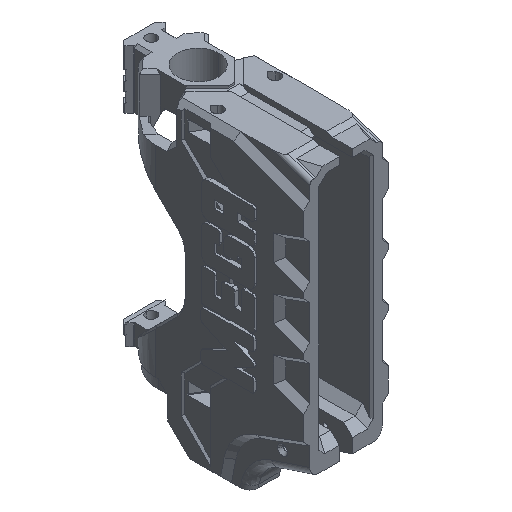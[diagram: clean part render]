
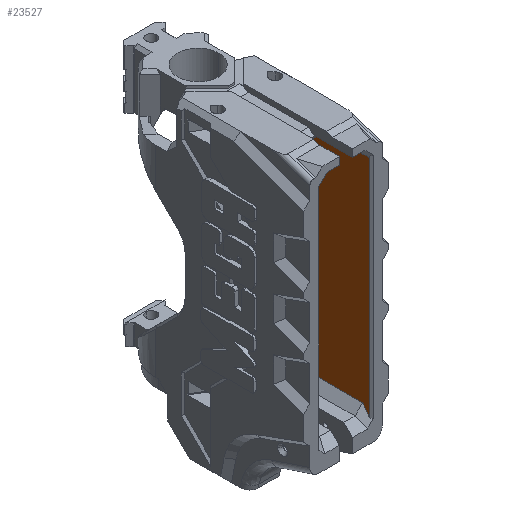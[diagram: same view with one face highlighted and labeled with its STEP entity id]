
A CAD part, isometric view. The second image highlights one B-rep face of the part: STEP entity #23527.
In plain terms, the highlighted planar face has unit normal (-1, 0, 0).
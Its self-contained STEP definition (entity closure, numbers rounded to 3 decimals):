
#226 = B_SPLINE_CURVE_WITH_KNOTS ( 'NONE', 3,
 ( #7610, #20710, #12756, #23173 ),
 .UNSPECIFIED., .F., .F.,
 ( 4, 4 ),
 ( 0., 1. ),
 .UNSPECIFIED. ) ;
#364 = AXIS2_PLACEMENT_3D ( 'NONE', #5022, #25871, #2819 ) ;
#384 = CARTESIAN_POINT ( 'NONE',  ( 13.356, -30.988, 120.665 ) ) ;
#861 = CARTESIAN_POINT ( 'NONE',  ( 13.356, -76.772, 2.236 ) ) ;
#899 = PLANE ( 'NONE',  #364 ) ;
#1202 = ORIENTED_EDGE ( 'NONE', *, *, #10526, .F. ) ;
#1346 = B_SPLINE_CURVE_WITH_KNOTS ( 'NONE', 3,
 ( #12668, #23484, #11142, #13206 ),
 .UNSPECIFIED., .F., .F.,
 ( 4, 4 ),
 ( 0., 1. ),
 .UNSPECIFIED. ) ;
#1426 = CARTESIAN_POINT ( 'NONE',  ( 13.356, -29.65, 119.317 ) ) ;
#2046 = ORIENTED_EDGE ( 'NONE', *, *, #9486, .T. ) ;
#2169 = CARTESIAN_POINT ( 'NONE',  ( 13.356, -76.2, 120.665 ) ) ;
#2348 = EDGE_CURVE ( 'NONE', #22256, #11971, #5067, .T. ) ;
#2819 = DIRECTION ( 'NONE',  ( 0., 0., 1. ) ) ;
#2904 = CARTESIAN_POINT ( 'NONE',  ( 13.356, -29.808, 119.317 ) ) ;
#2909 = B_SPLINE_CURVE_WITH_KNOTS ( 'NONE', 3,
 ( #8985, #21326, #8858, #12549 ),
 .UNSPECIFIED., .F., .F.,
 ( 4, 4 ),
 ( 0., 1. ),
 .UNSPECIFIED. ) ;
#3011 = ORIENTED_EDGE ( 'NONE', *, *, #7153, .T. ) ;
#3036 = ORIENTED_EDGE ( 'NONE', *, *, #2348, .T. ) ;
#3267 = CARTESIAN_POINT ( 'NONE',  ( 13.356, -76.771, 121.473 ) ) ;
#3937 = VERTEX_POINT ( 'NONE', #3267 ) ;
#4214 = CARTESIAN_POINT ( 'NONE',  ( 13.356, -75.586, 3.912 ) ) ;
#4467 = EDGE_CURVE ( 'NONE', #17676, #25938, #2909, .T. ) ;
#4962 = CARTESIAN_POINT ( 'NONE',  ( 13.356, -43.201, 7.265 ) ) ;
#5022 = CARTESIAN_POINT ( 'NONE',  ( 13.356, -76.772, 2.236 ) ) ;
#5067 = B_SPLINE_CURVE_WITH_KNOTS ( 'NONE', 3,
 ( #18815, #21138, #8542, #25657 ),
 .UNSPECIFIED., .F., .F.,
 ( 4, 4 ),
 ( 0., 1. ),
 .UNSPECIFIED. ) ;
#5134 = CARTESIAN_POINT ( 'NONE',  ( 13.356, -27.598, 114.3 ) ) ;
#5159 = FACE_OUTER_BOUND ( 'NONE', #16429, .T. ) ;
#5669 = CARTESIAN_POINT ( 'NONE',  ( 13.356, -46.059, 120.665 ) ) ;
#5701 = VERTEX_POINT ( 'NONE', #20480 ) ;
#6926 = EDGE_CURVE ( 'NONE', #19229, #11971, #18558, .T. ) ;
#7088 = CARTESIAN_POINT ( 'NONE',  ( 13.356, -30.7, 120.374 ) ) ;
#7146 = CARTESIAN_POINT ( 'NONE',  ( 13.356, -28.194, 7.265 ) ) ;
#7153 = EDGE_CURVE ( 'NONE', #25938, #18801, #226, .T. ) ;
#7478 = EDGE_CURVE ( 'NONE', #9389, #3937, #16544, .T. ) ;
#7610 = CARTESIAN_POINT ( 'NONE',  ( 13.356, -27.598, 114.3 ) ) ;
#8436 = CARTESIAN_POINT ( 'NONE',  ( 13.356, -76.2, 120.665 ) ) ;
#8542 = CARTESIAN_POINT ( 'NONE',  ( 13.356, -30.123, 119.475 ) ) ;
#8759 = CARTESIAN_POINT ( 'NONE',  ( 13.356, -28.194, 114.3 ) ) ;
#8858 = CARTESIAN_POINT ( 'NONE',  ( 13.356, -27.598, 115.282 ) ) ;
#8985 = CARTESIAN_POINT ( 'NONE',  ( 13.356, -27.598, 117.247 ) ) ;
#9083 = CARTESIAN_POINT ( 'NONE',  ( 13.356, -30.123, 119.317 ) ) ;
#9238 = CARTESIAN_POINT ( 'NONE',  ( 13.356, -30.988, 120.665 ) ) ;
#9369 = CARTESIAN_POINT ( 'NONE',  ( 13.356, -29.966, 119.317 ) ) ;
#9389 = VERTEX_POINT ( 'NONE', #8436 ) ;
#9486 = EDGE_CURVE ( 'NONE', #19229, #17676, #1346, .T. ) ;
#10184 = B_SPLINE_CURVE_WITH_KNOTS ( 'NONE', 3,
 ( #7146, #4962, #11260, #19620 ),
 .UNSPECIFIED., .F., .F.,
 ( 4, 4 ),
 ( 0., 1. ),
 .UNSPECIFIED. ) ;
#10320 = CARTESIAN_POINT ( 'NONE',  ( 13.356, -30.123, 119.793 ) ) ;
#10367 = VERTEX_POINT ( 'NONE', #18871 ) ;
#10526 = EDGE_CURVE ( 'NONE', #3937, #22069, #12708, .T. ) ;
#11142 = CARTESIAN_POINT ( 'NONE',  ( 13.356, -28.282, 117.937 ) ) ;
#11260 = CARTESIAN_POINT ( 'NONE',  ( 13.356, -58.208, 7.265 ) ) ;
#11929 = ORIENTED_EDGE ( 'NONE', *, *, #22052, .T. ) ;
#11971 = VERTEX_POINT ( 'NONE', #9083 ) ;
#12549 = CARTESIAN_POINT ( 'NONE',  ( 13.356, -27.598, 114.3 ) ) ;
#12668 = CARTESIAN_POINT ( 'NONE',  ( 13.356, -29.65, 119.317 ) ) ;
#12708 = B_SPLINE_CURVE_WITH_KNOTS ( 'NONE', 3,
 ( #19643, #15406, #15535, #861 ),
 .UNSPECIFIED., .F., .F.,
 ( 4, 4 ),
 ( 0., 1. ),
 .UNSPECIFIED. ) ;
#12756 = CARTESIAN_POINT ( 'NONE',  ( 13.356, -27.995, 114.3 ) ) ;
#12841 = CARTESIAN_POINT ( 'NONE',  ( 13.356, -74.401, 5.588 ) ) ;
#13001 = EDGE_CURVE ( 'NONE', #10367, #5701, #10184, .T. ) ;
#13206 = CARTESIAN_POINT ( 'NONE',  ( 13.356, -27.598, 117.247 ) ) ;
#13398 = CARTESIAN_POINT ( 'NONE',  ( 13.356, -30.988, 120.665 ) ) ;
#13662 = ORIENTED_EDGE ( 'NONE', *, *, #13001, .T. ) ;
#14113 = CARTESIAN_POINT ( 'NONE',  ( 13.356, -76.771, 121.473 ) ) ;
#14628 = CARTESIAN_POINT ( 'NONE',  ( 13.356, -73.216, 7.265 ) ) ;
#15406 = CARTESIAN_POINT ( 'NONE',  ( 13.356, -76.771, 81.727 ) ) ;
#15529 = EDGE_CURVE ( 'NONE', #18801, #10367, #23332, .T. ) ;
#15532 = CARTESIAN_POINT ( 'NONE',  ( 13.356, -61.129, 120.665 ) ) ;
#15535 = CARTESIAN_POINT ( 'NONE',  ( 13.356, -76.771, 41.982 ) ) ;
#15860 = ORIENTED_EDGE ( 'NONE', *, *, #6926, .F. ) ;
#16006 = B_SPLINE_CURVE_WITH_KNOTS ( 'NONE', 3,
 ( #17585, #15532, #5669, #9238 ),
 .UNSPECIFIED., .F., .F.,
 ( 4, 4 ),
 ( 0., 1. ),
 .UNSPECIFIED. ) ;
#16219 = ORIENTED_EDGE ( 'NONE', *, *, #15529, .T. ) ;
#16429 = EDGE_LOOP ( 'NONE', ( #24793, #1202, #19475, #11929, #22935, #3036, #15860, #2046, #20675, #3011, #16219, #13662 ) ) ;
#16544 = B_SPLINE_CURVE_WITH_KNOTS ( 'NONE', 3,
 ( #2169, #24679, #18903, #14113 ),
 .UNSPECIFIED., .F., .F.,
 ( 4, 4 ),
 ( 0., 1. ),
 .UNSPECIFIED. ) ;
#16644 = VERTEX_POINT ( 'NONE', #384 ) ;
#17097 = CARTESIAN_POINT ( 'NONE',  ( 13.356, -28.194, 7.265 ) ) ;
#17372 = CARTESIAN_POINT ( 'NONE',  ( 13.356, -30.411, 120.084 ) ) ;
#17531 = B_SPLINE_CURVE_WITH_KNOTS ( 'NONE', 3,
 ( #13398, #7088, #17372, #25749 ),
 .UNSPECIFIED., .F., .F.,
 ( 4, 4 ),
 ( 0., 1. ),
 .UNSPECIFIED. ) ;
#17576 = CARTESIAN_POINT ( 'NONE',  ( 13.356, -30.123, 119.317 ) ) ;
#17585 = CARTESIAN_POINT ( 'NONE',  ( 13.356, -76.2, 120.665 ) ) ;
#17676 = VERTEX_POINT ( 'NONE', #21621 ) ;
#18558 = B_SPLINE_CURVE_WITH_KNOTS ( 'NONE', 3,
 ( #19631, #2904, #9369, #17576 ),
 .UNSPECIFIED., .F., .F.,
 ( 4, 4 ),
 ( 0., 1. ),
 .UNSPECIFIED. ) ;
#18801 = VERTEX_POINT ( 'NONE', #23404 ) ;
#18805 = EDGE_CURVE ( 'NONE', #16644, #22256, #17531, .T. ) ;
#18815 = CARTESIAN_POINT ( 'NONE',  ( 13.356, -30.123, 119.793 ) ) ;
#18871 = CARTESIAN_POINT ( 'NONE',  ( 13.356, -28.194, 7.265 ) ) ;
#18903 = CARTESIAN_POINT ( 'NONE',  ( 13.356, -76.581, 121.204 ) ) ;
#19017 = CARTESIAN_POINT ( 'NONE',  ( 13.356, -76.772, 2.236 ) ) ;
#19229 = VERTEX_POINT ( 'NONE', #1426 ) ;
#19475 = ORIENTED_EDGE ( 'NONE', *, *, #7478, .F. ) ;
#19620 = CARTESIAN_POINT ( 'NONE',  ( 13.356, -73.216, 7.265 ) ) ;
#19631 = CARTESIAN_POINT ( 'NONE',  ( 13.356, -29.65, 119.317 ) ) ;
#19643 = CARTESIAN_POINT ( 'NONE',  ( 13.356, -76.771, 121.473 ) ) ;
#20014 = B_SPLINE_CURVE_WITH_KNOTS ( 'NONE', 3,
 ( #14628, #12841, #4214, #19017 ),
 .UNSPECIFIED., .F., .F.,
 ( 4, 4 ),
 ( 0., 1. ),
 .UNSPECIFIED. ) ;
#20480 = CARTESIAN_POINT ( 'NONE',  ( 13.356, -73.216, 7.265 ) ) ;
#20675 = ORIENTED_EDGE ( 'NONE', *, *, #4467, .T. ) ;
#20710 = CARTESIAN_POINT ( 'NONE',  ( 13.356, -27.796, 114.3 ) ) ;
#21138 = CARTESIAN_POINT ( 'NONE',  ( 13.356, -30.123, 119.634 ) ) ;
#21326 = CARTESIAN_POINT ( 'NONE',  ( 13.356, -27.598, 116.265 ) ) ;
#21621 = CARTESIAN_POINT ( 'NONE',  ( 13.356, -27.598, 117.247 ) ) ;
#22052 = EDGE_CURVE ( 'NONE', #9389, #16644, #16006, .T. ) ;
#22069 = VERTEX_POINT ( 'NONE', #24306 ) ;
#22256 = VERTEX_POINT ( 'NONE', #10320 ) ;
#22862 = CARTESIAN_POINT ( 'NONE',  ( 13.356, -28.194, 42.943 ) ) ;
#22935 = ORIENTED_EDGE ( 'NONE', *, *, #18805, .T. ) ;
#23173 = CARTESIAN_POINT ( 'NONE',  ( 13.356, -28.194, 114.3 ) ) ;
#23332 = B_SPLINE_CURVE_WITH_KNOTS ( 'NONE', 3,
 ( #8759, #27134, #22862, #17097 ),
 .UNSPECIFIED., .F., .F.,
 ( 4, 4 ),
 ( 0., 1. ),
 .UNSPECIFIED. ) ;
#23404 = CARTESIAN_POINT ( 'NONE',  ( 13.356, -28.194, 114.3 ) ) ;
#23484 = CARTESIAN_POINT ( 'NONE',  ( 13.356, -28.966, 118.627 ) ) ;
#23527 = ADVANCED_FACE ( 'NONE', ( #5159 ), #899, .T. ) ;
#24306 = CARTESIAN_POINT ( 'NONE',  ( 13.356, -76.772, 2.236 ) ) ;
#24408 = EDGE_CURVE ( 'NONE', #5701, #22069, #20014, .T. ) ;
#24679 = CARTESIAN_POINT ( 'NONE',  ( 13.356, -76.39, 120.934 ) ) ;
#24793 = ORIENTED_EDGE ( 'NONE', *, *, #24408, .T. ) ;
#25657 = CARTESIAN_POINT ( 'NONE',  ( 13.356, -30.123, 119.317 ) ) ;
#25749 = CARTESIAN_POINT ( 'NONE',  ( 13.356, -30.123, 119.793 ) ) ;
#25871 = DIRECTION ( 'NONE',  ( -1., 0., 0. ) ) ;
#25938 = VERTEX_POINT ( 'NONE', #5134 ) ;
#27134 = CARTESIAN_POINT ( 'NONE',  ( 13.356, -28.194, 78.622 ) ) ;
